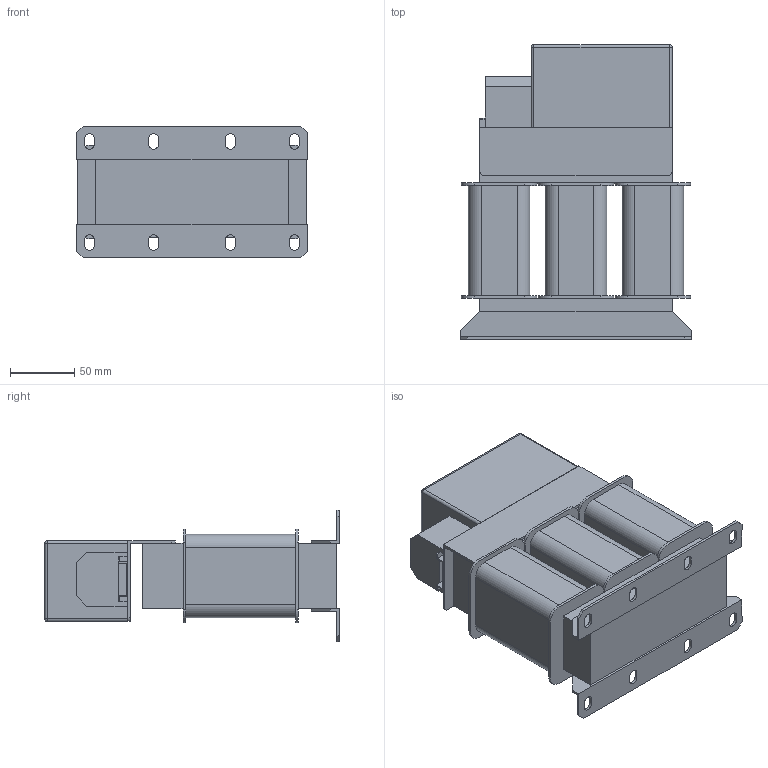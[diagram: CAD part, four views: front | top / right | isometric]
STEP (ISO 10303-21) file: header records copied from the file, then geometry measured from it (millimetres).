
FILE_DESCRIPTION(/* description */ (''),/* implementation_level */ '2;1');
FILE_NAME(/* name */ 'Sin-T4-017.stp',/* time_stamp */ '2025-03-10T16:19:39+04:00',/* author */ ('Лео'),/* organization */ (''),/* preprocessor_version */ 'ST-DEVELOPER v19.2',/* originating_system */ 'Autodesk Inventor 2024',/* authorisation */ '');
FILE_SCHEMA (('AUTOMOTIVE_DESIGN { 1 0 10303 214 3 1 1 }'));
Length unit declared in the file: millimetre
Products named in the file (1): Sin-T4-004
Bounding box: 180 x 230 x 103 mm (x, y, z)
Volume: 1869166.5 mm3; surface area: 289588.6 mm2
Topology: 15 solids, 15 shells, 212 faces, 530 edges, 348 vertices
Faces by surface type: plane 144, cylinder 64, sphere 4
Entity records: 6355 total; most frequent: CARTESIAN_POINT 1091, DIRECTION 1084, ORIENTED_EDGE 1060, EDGE_CURVE 530, LINE 402, VECTOR 402, VERTEX_POINT 348, AXIS2_PLACEMENT_3D 341
